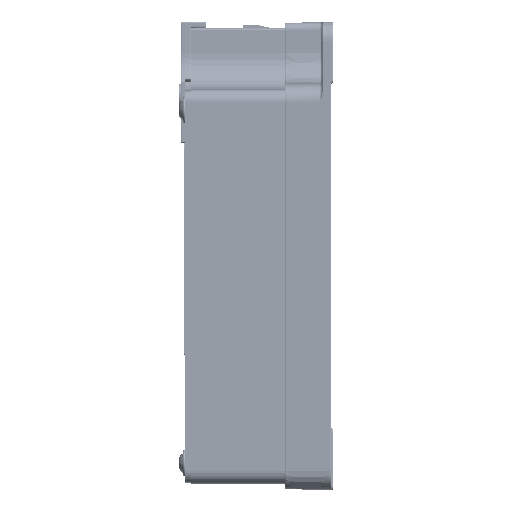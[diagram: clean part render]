
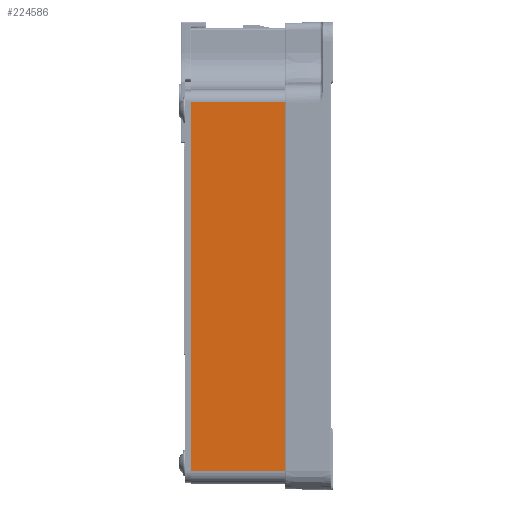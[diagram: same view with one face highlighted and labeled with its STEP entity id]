
A CAD part, left-side view. The second image highlights one B-rep face of the part: STEP entity #224586.
In plain terms, the highlighted planar face has unit normal (-1, 0, 0).
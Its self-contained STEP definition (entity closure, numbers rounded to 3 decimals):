
#1740 = LINE ( 'NONE', #180423, #153047 ) ;
#9254 = EDGE_LOOP ( 'NONE', ( #31968, #48285, #136009, #135430 ) ) ;
#17604 = PLANE ( 'NONE',  #64437 ) ;
#31968 = ORIENTED_EDGE ( 'NONE', *, *, #162428, .F. ) ;
#34737 = DIRECTION ( 'NONE',  ( 0., 0., 1. ) ) ;
#36322 = EDGE_CURVE ( 'NONE', #266810, #211136, #141913, .T. ) ;
#48285 = ORIENTED_EDGE ( 'NONE', *, *, #322800, .T. ) ;
#48585 = CARTESIAN_POINT ( 'NONE',  ( -83.315, 37., -60.83 ) ) ;
#49112 = VECTOR ( 'NONE', #260265, 1000. ) ;
#64437 = AXIS2_PLACEMENT_3D ( 'NONE', #48585, #340124, #130380 ) ;
#65057 = VECTOR ( 'NONE', #226326, 1000. ) ;
#75230 = VERTEX_POINT ( 'NONE', #199098 ) ;
#79401 = CARTESIAN_POINT ( 'NONE',  ( -83.315, 10.6, 41.15 ) ) ;
#83558 = CARTESIAN_POINT ( 'NONE',  ( -83.315, 10.6, -60.83 ) ) ;
#107943 = CARTESIAN_POINT ( 'NONE',  ( -83.315, 37., 41.15 ) ) ;
#109466 = CARTESIAN_POINT ( 'NONE',  ( -83.315, 10.6, -57.51 ) ) ;
#129747 = CARTESIAN_POINT ( 'NONE',  ( -83.315, 37., 41.15 ) ) ;
#130380 = DIRECTION ( 'NONE',  ( 0., 0., -1. ) ) ;
#135430 = ORIENTED_EDGE ( 'NONE', *, *, #376301, .T. ) ;
#136009 = ORIENTED_EDGE ( 'NONE', *, *, #36322, .T. ) ;
#141913 = LINE ( 'NONE', #83558, #49112 ) ;
#153047 = VECTOR ( 'NONE', #34737, 1000. ) ;
#162428 = EDGE_CURVE ( 'NONE', #75230, #175499, #1740, .T. ) ;
#175499 = VERTEX_POINT ( 'NONE', #129747 ) ;
#180423 = CARTESIAN_POINT ( 'NONE',  ( -83.315, 37., -60.83 ) ) ;
#190035 = LINE ( 'NONE', #217182, #322274 ) ;
#199098 = CARTESIAN_POINT ( 'NONE',  ( -83.315, 37., -57.51 ) ) ;
#211136 = VERTEX_POINT ( 'NONE', #79401 ) ;
#217182 = CARTESIAN_POINT ( 'NONE',  ( -83.315, 37., -57.51 ) ) ;
#224586 = ADVANCED_FACE ( 'NONE', ( #254441 ), #17604, .F. ) ;
#226326 = DIRECTION ( 'NONE',  ( 0., 1., 0. ) ) ;
#254441 = FACE_OUTER_BOUND ( 'NONE', #9254, .T. ) ;
#260265 = DIRECTION ( 'NONE',  ( 0., 0., 1. ) ) ;
#266810 = VERTEX_POINT ( 'NONE', #109466 ) ;
#322274 = VECTOR ( 'NONE', #335684, 1000. ) ;
#322800 = EDGE_CURVE ( 'NONE', #75230, #266810, #190035, .T. ) ;
#335684 = DIRECTION ( 'NONE',  ( 0., -1., 0. ) ) ;
#337237 = LINE ( 'NONE', #107943, #65057 ) ;
#340124 = DIRECTION ( 'NONE',  ( 1., 0., 0. ) ) ;
#376301 = EDGE_CURVE ( 'NONE', #211136, #175499, #337237, .T. ) ;
